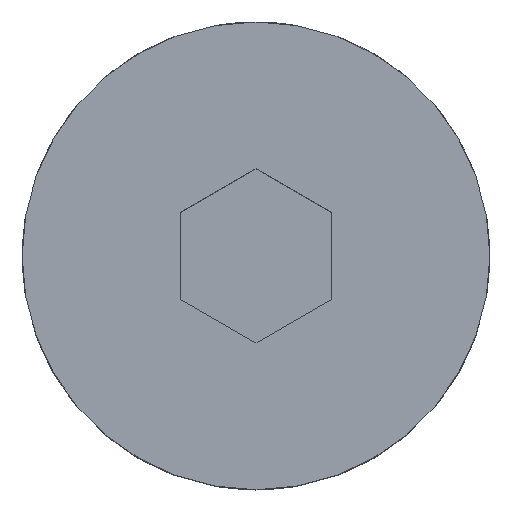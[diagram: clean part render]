
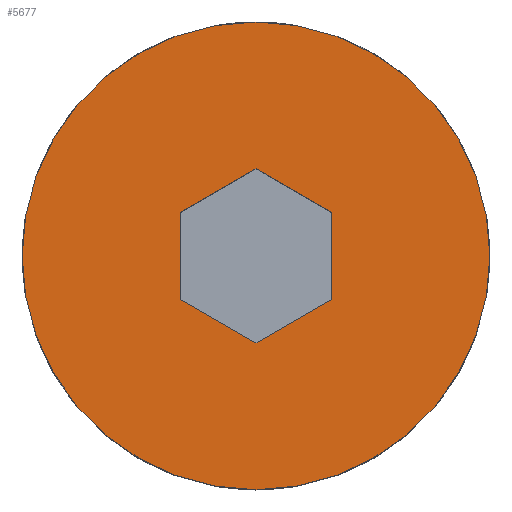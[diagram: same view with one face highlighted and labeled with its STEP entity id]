
A CAD part, top view. The second image highlights one B-rep face of the part: STEP entity #5677.
In plain terms, the highlighted planar face has unit normal (0, 0, 1).
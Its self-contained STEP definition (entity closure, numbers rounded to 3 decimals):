
#2392 = CYLINDRICAL_SURFACE('',#2393,3.1);
#2393 = AXIS2_PLACEMENT_3D('',#2394,#2395,#2396);
#2394 = CARTESIAN_POINT('',(0.,11.4,10.2));
#2395 = DIRECTION('',(0.,0.,1.));
#2396 = DIRECTION('',(0.,1.,0.));
#4022 = VERTEX_POINT('',#4023);
#4023 = CARTESIAN_POINT('',(0.,14.5,12.2));
#4044 = EDGE_CURVE('',#4022,#4022,#4045,.T.);
#4045 = SURFACE_CURVE('',#4046,(#4051,#4058),.PCURVE_S1.);
#4046 = CIRCLE('',#4047,3.1);
#4047 = AXIS2_PLACEMENT_3D('',#4048,#4049,#4050);
#4048 = CARTESIAN_POINT('',(0.,11.4,12.2));
#4049 = DIRECTION('',(0.,-0.,1.));
#4050 = DIRECTION('',(0.,1.,0.));
#4051 = PCURVE('',#2392,#4052);
#4052 = DEFINITIONAL_REPRESENTATION('',(#4053),#4057);
#4053 = LINE('',#4054,#4055);
#4054 = CARTESIAN_POINT('',(0.,2.));
#4055 = VECTOR('',#4056,1.);
#4056 = DIRECTION('',(1.,0.));
#4057 = ( GEOMETRIC_REPRESENTATION_CONTEXT(2) 
PARAMETRIC_REPRESENTATION_CONTEXT() REPRESENTATION_CONTEXT('2D SPACE',''
  ) );
#4058 = PCURVE('',#4059,#4064);
#4059 = PLANE('',#4060);
#4060 = AXIS2_PLACEMENT_3D('',#4061,#4062,#4063);
#4061 = CARTESIAN_POINT('',(0.,11.4,12.2));
#4062 = DIRECTION('',(0.,0.,1.));
#4063 = DIRECTION('',(0.,1.,0.));
#4064 = DEFINITIONAL_REPRESENTATION('',(#4065),#4069);
#4065 = CIRCLE('',#4066,3.1);
#4066 = AXIS2_PLACEMENT_2D('',#4067,#4068);
#4067 = CARTESIAN_POINT('',(0.,0.));
#4068 = DIRECTION('',(1.,0.));
#4069 = ( GEOMETRIC_REPRESENTATION_CONTEXT(2) 
PARAMETRIC_REPRESENTATION_CONTEXT() REPRESENTATION_CONTEXT('2D SPACE',''
  ) );
#5677 = ADVANCED_FACE('',(#5678,#5681),#4059,.T.);
#5678 = FACE_BOUND('',#5679,.T.);
#5679 = EDGE_LOOP('',(#5680));
#5680 = ORIENTED_EDGE('',*,*,#4044,.T.);
#5681 = FACE_BOUND('',#5682,.T.);
#5682 = EDGE_LOOP('',(#5683,#5713,#5741,#5769,#5797,#5825));
#5683 = ORIENTED_EDGE('',*,*,#5684,.T.);
#5684 = EDGE_CURVE('',#5685,#5687,#5689,.T.);
#5685 = VERTEX_POINT('',#5686);
#5686 = CARTESIAN_POINT('',(-1.,10.823,12.2));
#5687 = VERTEX_POINT('',#5688);
#5688 = CARTESIAN_POINT('',(-1.,11.977,12.2));
#5689 = SURFACE_CURVE('',#5690,(#5694,#5701),.PCURVE_S1.);
#5690 = LINE('',#5691,#5692);
#5691 = CARTESIAN_POINT('',(-1.,11.689,12.2));
#5692 = VECTOR('',#5693,1.);
#5693 = DIRECTION('',(0.,1.,0.));
#5694 = PCURVE('',#4059,#5695);
#5695 = DEFINITIONAL_REPRESENTATION('',(#5696),#5700);
#5696 = LINE('',#5697,#5698);
#5697 = CARTESIAN_POINT('',(0.289,1.));
#5698 = VECTOR('',#5699,1.);
#5699 = DIRECTION('',(1.,0.));
#5700 = ( GEOMETRIC_REPRESENTATION_CONTEXT(2) 
PARAMETRIC_REPRESENTATION_CONTEXT() REPRESENTATION_CONTEXT('2D SPACE',''
  ) );
#5701 = PCURVE('',#5702,#5707);
#5702 = PLANE('',#5703);
#5703 = AXIS2_PLACEMENT_3D('',#5704,#5705,#5706);
#5704 = CARTESIAN_POINT('',(-1.,11.977,9.8));
#5705 = DIRECTION('',(1.,0.,0.));
#5706 = DIRECTION('',(0.,-1.,0.));
#5707 = DEFINITIONAL_REPRESENTATION('',(#5708),#5712);
#5708 = LINE('',#5709,#5710);
#5709 = CARTESIAN_POINT('',(0.289,-2.4));
#5710 = VECTOR('',#5711,1.);
#5711 = DIRECTION('',(-1.,0.));
#5712 = ( GEOMETRIC_REPRESENTATION_CONTEXT(2) 
PARAMETRIC_REPRESENTATION_CONTEXT() REPRESENTATION_CONTEXT('2D SPACE',''
  ) );
#5713 = ORIENTED_EDGE('',*,*,#5714,.T.);
#5714 = EDGE_CURVE('',#5687,#5715,#5717,.T.);
#5715 = VERTEX_POINT('',#5716);
#5716 = CARTESIAN_POINT('',(0.,12.555,12.2));
#5717 = SURFACE_CURVE('',#5718,(#5722,#5729),.PCURVE_S1.);
#5718 = LINE('',#5719,#5720);
#5719 = CARTESIAN_POINT('',(-0.25,12.41,12.2));
#5720 = VECTOR('',#5721,1.);
#5721 = DIRECTION('',(0.866,0.5,0.));
#5722 = PCURVE('',#4059,#5723);
#5723 = DEFINITIONAL_REPRESENTATION('',(#5724),#5728);
#5724 = LINE('',#5725,#5726);
#5725 = CARTESIAN_POINT('',(1.01,0.25));
#5726 = VECTOR('',#5727,1.);
#5727 = DIRECTION('',(0.5,-0.866));
#5728 = ( GEOMETRIC_REPRESENTATION_CONTEXT(2) 
PARAMETRIC_REPRESENTATION_CONTEXT() REPRESENTATION_CONTEXT('2D SPACE',''
  ) );
#5729 = PCURVE('',#5730,#5735);
#5730 = PLANE('',#5731);
#5731 = AXIS2_PLACEMENT_3D('',#5732,#5733,#5734);
#5732 = CARTESIAN_POINT('',(0.,12.555,9.8));
#5733 = DIRECTION('',(0.5,-0.866,0.));
#5734 = DIRECTION('',(-0.866,-0.5,0.));
#5735 = DEFINITIONAL_REPRESENTATION('',(#5736),#5740);
#5736 = LINE('',#5737,#5738);
#5737 = CARTESIAN_POINT('',(0.289,-2.4));
#5738 = VECTOR('',#5739,1.);
#5739 = DIRECTION('',(-1.,0.));
#5740 = ( GEOMETRIC_REPRESENTATION_CONTEXT(2) 
PARAMETRIC_REPRESENTATION_CONTEXT() REPRESENTATION_CONTEXT('2D SPACE',''
  ) );
#5741 = ORIENTED_EDGE('',*,*,#5742,.T.);
#5742 = EDGE_CURVE('',#5715,#5743,#5745,.T.);
#5743 = VERTEX_POINT('',#5744);
#5744 = CARTESIAN_POINT('',(1.,11.977,12.2));
#5745 = SURFACE_CURVE('',#5746,(#5750,#5757),.PCURVE_S1.);
#5746 = LINE('',#5747,#5748);
#5747 = CARTESIAN_POINT('',(0.75,12.122,12.2));
#5748 = VECTOR('',#5749,1.);
#5749 = DIRECTION('',(0.866,-0.5,0.));
#5750 = PCURVE('',#4059,#5751);
#5751 = DEFINITIONAL_REPRESENTATION('',(#5752),#5756);
#5752 = LINE('',#5753,#5754);
#5753 = CARTESIAN_POINT('',(0.722,-0.75));
#5754 = VECTOR('',#5755,1.);
#5755 = DIRECTION('',(-0.5,-0.866));
#5756 = ( GEOMETRIC_REPRESENTATION_CONTEXT(2) 
PARAMETRIC_REPRESENTATION_CONTEXT() REPRESENTATION_CONTEXT('2D SPACE',''
  ) );
#5757 = PCURVE('',#5758,#5763);
#5758 = PLANE('',#5759);
#5759 = AXIS2_PLACEMENT_3D('',#5760,#5761,#5762);
#5760 = CARTESIAN_POINT('',(1.,11.977,9.8));
#5761 = DIRECTION('',(-0.5,-0.866,0.));
#5762 = DIRECTION('',(-0.866,0.5,0.));
#5763 = DEFINITIONAL_REPRESENTATION('',(#5764),#5768);
#5764 = LINE('',#5765,#5766);
#5765 = CARTESIAN_POINT('',(0.289,-2.4));
#5766 = VECTOR('',#5767,1.);
#5767 = DIRECTION('',(-1.,0.));
#5768 = ( GEOMETRIC_REPRESENTATION_CONTEXT(2) 
PARAMETRIC_REPRESENTATION_CONTEXT() REPRESENTATION_CONTEXT('2D SPACE',''
  ) );
#5769 = ORIENTED_EDGE('',*,*,#5770,.T.);
#5770 = EDGE_CURVE('',#5743,#5771,#5773,.T.);
#5771 = VERTEX_POINT('',#5772);
#5772 = CARTESIAN_POINT('',(1.,10.823,12.2));
#5773 = SURFACE_CURVE('',#5774,(#5778,#5785),.PCURVE_S1.);
#5774 = LINE('',#5775,#5776);
#5775 = CARTESIAN_POINT('',(1.,11.111,12.2));
#5776 = VECTOR('',#5777,1.);
#5777 = DIRECTION('',(0.,-1.,0.));
#5778 = PCURVE('',#4059,#5779);
#5779 = DEFINITIONAL_REPRESENTATION('',(#5780),#5784);
#5780 = LINE('',#5781,#5782);
#5781 = CARTESIAN_POINT('',(-0.289,-1.));
#5782 = VECTOR('',#5783,1.);
#5783 = DIRECTION('',(-1.,0.));
#5784 = ( GEOMETRIC_REPRESENTATION_CONTEXT(2) 
PARAMETRIC_REPRESENTATION_CONTEXT() REPRESENTATION_CONTEXT('2D SPACE',''
  ) );
#5785 = PCURVE('',#5786,#5791);
#5786 = PLANE('',#5787);
#5787 = AXIS2_PLACEMENT_3D('',#5788,#5789,#5790);
#5788 = CARTESIAN_POINT('',(1.,10.823,9.8));
#5789 = DIRECTION('',(-1.,0.,0.));
#5790 = DIRECTION('',(0.,1.,0.));
#5791 = DEFINITIONAL_REPRESENTATION('',(#5792),#5796);
#5792 = LINE('',#5793,#5794);
#5793 = CARTESIAN_POINT('',(0.289,-2.4));
#5794 = VECTOR('',#5795,1.);
#5795 = DIRECTION('',(-1.,-0.));
#5796 = ( GEOMETRIC_REPRESENTATION_CONTEXT(2) 
PARAMETRIC_REPRESENTATION_CONTEXT() REPRESENTATION_CONTEXT('2D SPACE',''
  ) );
#5797 = ORIENTED_EDGE('',*,*,#5798,.T.);
#5798 = EDGE_CURVE('',#5771,#5799,#5801,.T.);
#5799 = VERTEX_POINT('',#5800);
#5800 = CARTESIAN_POINT('',(0.,10.245,12.2));
#5801 = SURFACE_CURVE('',#5802,(#5806,#5813),.PCURVE_S1.);
#5802 = LINE('',#5803,#5804);
#5803 = CARTESIAN_POINT('',(0.25,10.39,12.2));
#5804 = VECTOR('',#5805,1.);
#5805 = DIRECTION('',(-0.866,-0.5,0.));
#5806 = PCURVE('',#4059,#5807);
#5807 = DEFINITIONAL_REPRESENTATION('',(#5808),#5812);
#5808 = LINE('',#5809,#5810);
#5809 = CARTESIAN_POINT('',(-1.01,-0.25));
#5810 = VECTOR('',#5811,1.);
#5811 = DIRECTION('',(-0.5,0.866));
#5812 = ( GEOMETRIC_REPRESENTATION_CONTEXT(2) 
PARAMETRIC_REPRESENTATION_CONTEXT() REPRESENTATION_CONTEXT('2D SPACE',''
  ) );
#5813 = PCURVE('',#5814,#5819);
#5814 = PLANE('',#5815);
#5815 = AXIS2_PLACEMENT_3D('',#5816,#5817,#5818);
#5816 = CARTESIAN_POINT('',(0.,10.245,9.8));
#5817 = DIRECTION('',(-0.5,0.866,0.));
#5818 = DIRECTION('',(0.866,0.5,0.));
#5819 = DEFINITIONAL_REPRESENTATION('',(#5820),#5824);
#5820 = LINE('',#5821,#5822);
#5821 = CARTESIAN_POINT('',(0.289,-2.4));
#5822 = VECTOR('',#5823,1.);
#5823 = DIRECTION('',(-1.,-0.));
#5824 = ( GEOMETRIC_REPRESENTATION_CONTEXT(2) 
PARAMETRIC_REPRESENTATION_CONTEXT() REPRESENTATION_CONTEXT('2D SPACE',''
  ) );
#5825 = ORIENTED_EDGE('',*,*,#5826,.T.);
#5826 = EDGE_CURVE('',#5799,#5685,#5827,.T.);
#5827 = SURFACE_CURVE('',#5828,(#5832,#5839),.PCURVE_S1.);
#5828 = LINE('',#5829,#5830);
#5829 = CARTESIAN_POINT('',(-0.75,10.678,12.2));
#5830 = VECTOR('',#5831,1.);
#5831 = DIRECTION('',(-0.866,0.5,0.));
#5832 = PCURVE('',#4059,#5833);
#5833 = DEFINITIONAL_REPRESENTATION('',(#5834),#5838);
#5834 = LINE('',#5835,#5836);
#5835 = CARTESIAN_POINT('',(-0.722,0.75));
#5836 = VECTOR('',#5837,1.);
#5837 = DIRECTION('',(0.5,0.866));
#5838 = ( GEOMETRIC_REPRESENTATION_CONTEXT(2) 
PARAMETRIC_REPRESENTATION_CONTEXT() REPRESENTATION_CONTEXT('2D SPACE',''
  ) );
#5839 = PCURVE('',#5840,#5845);
#5840 = PLANE('',#5841);
#5841 = AXIS2_PLACEMENT_3D('',#5842,#5843,#5844);
#5842 = CARTESIAN_POINT('',(-1.,10.823,9.8));
#5843 = DIRECTION('',(0.5,0.866,0.));
#5844 = DIRECTION('',(0.866,-0.5,0.));
#5845 = DEFINITIONAL_REPRESENTATION('',(#5846),#5850);
#5846 = LINE('',#5847,#5848);
#5847 = CARTESIAN_POINT('',(0.289,-2.4));
#5848 = VECTOR('',#5849,1.);
#5849 = DIRECTION('',(-1.,0.));
#5850 = ( GEOMETRIC_REPRESENTATION_CONTEXT(2) 
PARAMETRIC_REPRESENTATION_CONTEXT() REPRESENTATION_CONTEXT('2D SPACE',''
  ) );
